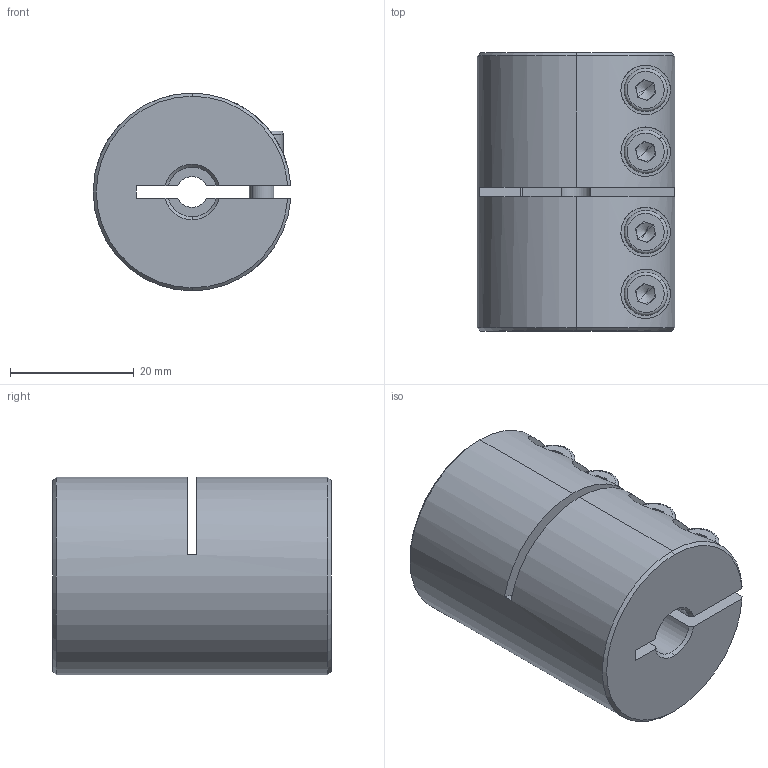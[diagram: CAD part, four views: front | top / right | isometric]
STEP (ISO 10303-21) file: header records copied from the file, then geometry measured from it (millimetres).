
FILE_DESCRIPTION (( 'STEP AP214' ), '1' );
FILE_NAME ('LL-B-D32L45-5-8½¨Ä£.STEP', '2022-07-21T06:22:01', ( '' ), ( '' ), 'SwSTEP 2.0', 'SolidWorks 2022', '' );
FILE_SCHEMA (( 'AUTOMOTIVE_DESIGN' ));
Length unit declared in the file: millimetre
Products named in the file (1): LL-B-D32L45-5-8膘耀
Bounding box: 31.97 x 45 x 32 mm (x, y, z)
Volume: 31737.5 mm3; surface area: 10727.3 mm2
Topology: 1 solids, 1 shells, 193 faces, 492 edges, 309 vertices
Faces by surface type: plane 88, cylinder 77, cone 20, torus 8
Entity records: 6357 total; most frequent: CARTESIAN_POINT 1583, DIRECTION 1037, ORIENTED_EDGE 968, EDGE_CURVE 484, AXIS2_PLACEMENT_3D 403, VERTEX_POINT 309, VECTOR 231, LINE 231
